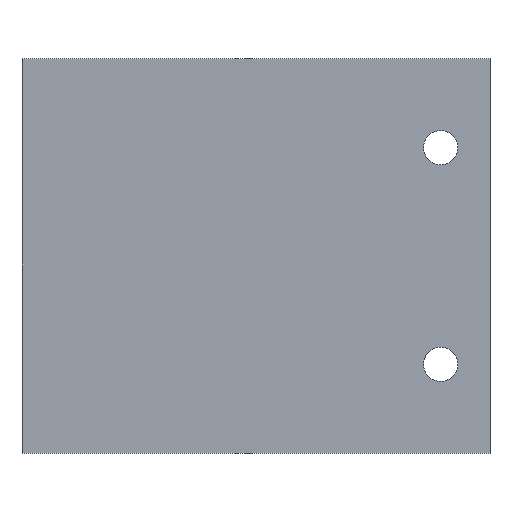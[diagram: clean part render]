
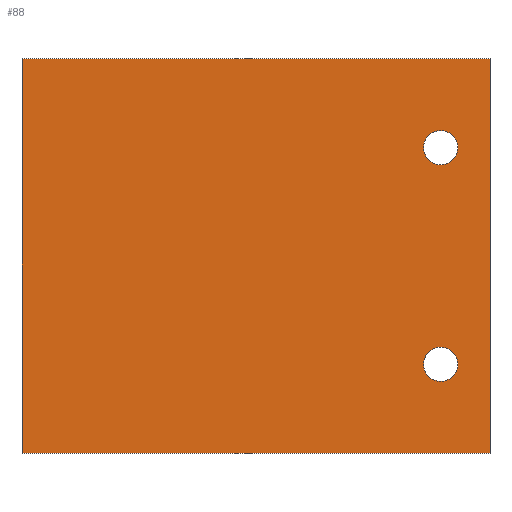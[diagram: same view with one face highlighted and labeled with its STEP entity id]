
A CAD part, top view. The second image highlights one B-rep face of the part: STEP entity #88.
In plain terms, the highlighted planar face has unit normal (0, 0, 1).
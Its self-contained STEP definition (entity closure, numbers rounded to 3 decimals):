
#27=CARTESIAN_POINT('',(3.25,0.,1.46));
#28=DIRECTION('',(0.,0.,1.));
#29=DIRECTION('',(1.,0.,0.));
#30=AXIS2_PLACEMENT_3D('',#27,#28,#29);
#31=PLANE('',#30);
#32=CARTESIAN_POINT('',(21.14,9.6,1.46));
#33=VERTEX_POINT('',#32);
#34=CARTESIAN_POINT('',(19.625,9.6,1.46));
#35=DIRECTION('',(0.,0.,-1.));
#36=DIRECTION('',(1.,0.,0.));
#37=AXIS2_PLACEMENT_3D('',#34,#35,#36);
#38=CIRCLE('',#37,1.515);
#39=EDGE_CURVE('',#33,#33,#38,.T.);
#40=ORIENTED_EDGE('',*,*,#39,.T.);
#41=EDGE_LOOP('',(#40));
#42=FACE_BOUND('',#41,.T.);
#43=CARTESIAN_POINT('',(21.14,-9.6,1.46));
#44=VERTEX_POINT('',#43);
#45=CARTESIAN_POINT('',(19.625,-9.6,1.46));
#46=DIRECTION('',(0.,0.,-1.));
#47=DIRECTION('',(1.,0.,0.));
#48=AXIS2_PLACEMENT_3D('',#45,#46,#47);
#49=CIRCLE('',#48,1.515);
#50=EDGE_CURVE('',#44,#44,#49,.T.);
#51=ORIENTED_EDGE('',*,*,#50,.T.);
#52=EDGE_LOOP('',(#51));
#53=FACE_BOUND('',#52,.T.);
#54=CARTESIAN_POINT('',(24.,-17.5,1.46));
#55=VERTEX_POINT('',#54);
#56=CARTESIAN_POINT('',(-17.5,-17.5,1.46));
#57=VERTEX_POINT('',#56);
#58=CARTESIAN_POINT('',(24.,-17.5,1.46));
#59=DIRECTION('',(-1.,0.,0.));
#60=VECTOR('',#59,41.5);
#61=LINE('',#58,#60);
#62=EDGE_CURVE('',#55,#57,#61,.T.);
#63=ORIENTED_EDGE('',*,*,#62,.F.);
#64=CARTESIAN_POINT('',(24.,17.5,1.46));
#65=VERTEX_POINT('',#64);
#66=CARTESIAN_POINT('',(24.,17.5,1.46));
#67=DIRECTION('',(0.,-1.,0.));
#68=VECTOR('',#67,35.);
#69=LINE('',#66,#68);
#70=EDGE_CURVE('',#65,#55,#69,.T.);
#71=ORIENTED_EDGE('',*,*,#70,.F.);
#72=CARTESIAN_POINT('',(-17.5,17.5,1.46));
#73=VERTEX_POINT('',#72);
#74=CARTESIAN_POINT('',(-17.5,17.5,1.46));
#75=DIRECTION('',(1.,0.,-0.));
#76=VECTOR('',#75,41.5);
#77=LINE('',#74,#76);
#78=EDGE_CURVE('',#73,#65,#77,.T.);
#79=ORIENTED_EDGE('',*,*,#78,.F.);
#80=CARTESIAN_POINT('',(-17.5,-17.5,1.46));
#81=DIRECTION('',(0.,1.,0.));
#82=VECTOR('',#81,35.);
#83=LINE('',#80,#82);
#84=EDGE_CURVE('',#57,#73,#83,.T.);
#85=ORIENTED_EDGE('',*,*,#84,.F.);
#86=EDGE_LOOP('',(#63,#71,#79,#85));
#87=FACE_BOUND('',#86,.T.);
#88=ADVANCED_FACE('',(#42,#53,#87),#31,.T.);
